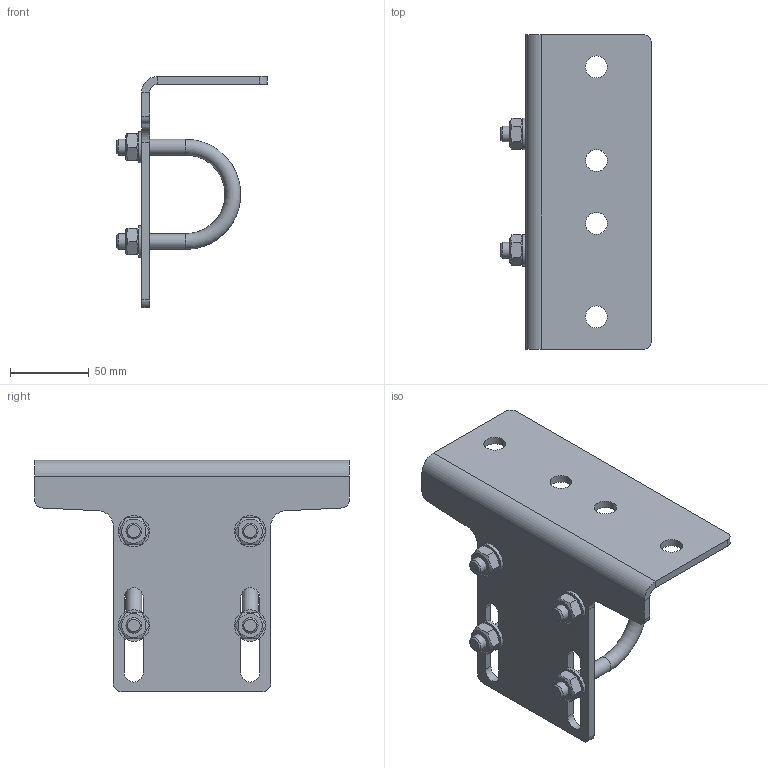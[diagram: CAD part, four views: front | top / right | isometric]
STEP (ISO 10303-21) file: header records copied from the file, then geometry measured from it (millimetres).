
FILE_DESCRIPTION(/* description */ (''),/* implementation_level */ '2;1');
FILE_NAME(/* name */ 'D:\VDV Techniek\Documents\Inventor\_ISP_Products\UDG on Round Tube Kit\Round tube kit original\STP\Round tube 48mm-in-Mounting bracket.stp',/* time_stamp */ '2022-12-29T15:04:46+01:00',/* author */ ('jos'),/* organization */ (''),/* preprocessor_version */ 'ST-DEVELOPER v15.2',/* originating_system */ 'Autodesk Inventor 2014',/* authorisation */ '');
FILE_SCHEMA (('AUTOMOTIVE_DESIGN { 1 0 10303 214 3 1 1 }'));
Length unit declared in the file: millimetre
Products named in the file (5): UDG_Mounting_Bracket_universal_HDG; Krambeugel 48mm; DIN 125 - A 10,5; DIN 934 - M10 x 1,5; Round tube 48mm-in-Mounting bracket
Assembly tree (11 placements, depth 2):
  Round tube 48mm-in-Mounting bracket
    UDG_Mounting_Bracket_universal_HDG
    Krambeugel 48mm  x2
    DIN 125 - A 10,5  x4
    DIN 934 - M10 x 1,5  x4
Bounding box: 96 x 200 x 147 mm (x, y, z)
Volume: 186205.8 mm3; surface area: 84810.6 mm2
Topology: 11 solids, 11 shells, 122 faces, 272 edges, 172 vertices
Faces by surface type: plane 64, cylinder 36, cone 20, torus 2
Full cylindrical faces by diameter (mm): 8.376 x4, 10 x4, 10.5 x4, 12 x2, 14 x4, 20 x4
Entity records: 1959 total; most frequent: DIRECTION 338, CARTESIAN_POINT 334, ORIENTED_EDGE 268, AXIS2_PLACEMENT_3D 136, EDGE_CURVE 134, EDGE_LOOP 102, VERTEX_POINT 96, LINE 66
